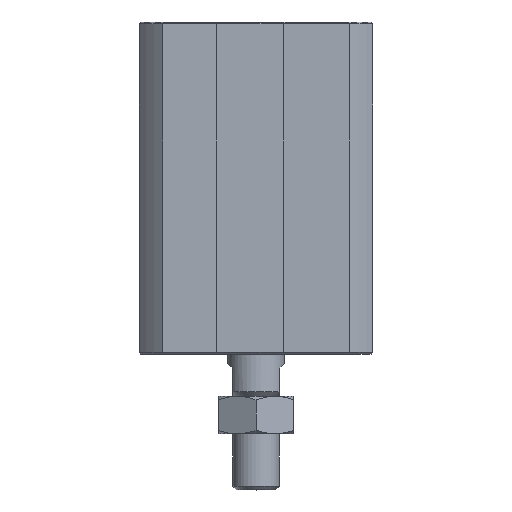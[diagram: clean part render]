
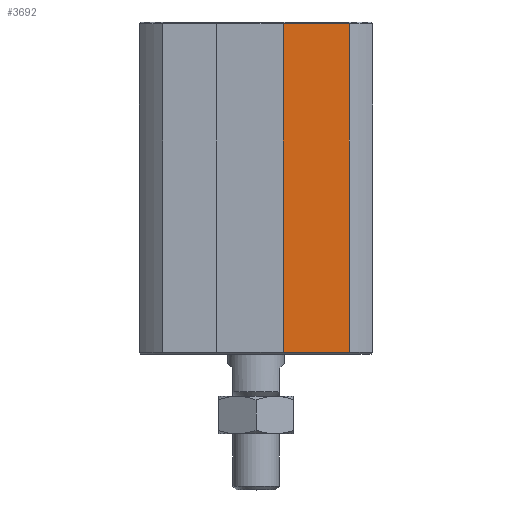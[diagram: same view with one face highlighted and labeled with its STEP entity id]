
A CAD part, top view. The second image highlights one B-rep face of the part: STEP entity #3692.
In plain terms, the highlighted planar face has unit normal (0, 0, 1).
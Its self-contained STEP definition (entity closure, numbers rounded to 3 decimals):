
#128=LINE('',#5032,#318);
#167=LINE('',#5167,#357);
#168=LINE('',#5169,#358);
#169=LINE('',#5171,#359);
#318=VECTOR('',#4294,1000.);
#357=VECTOR('',#4405,1000.);
#358=VECTOR('',#4406,1000.);
#359=VECTOR('',#4407,1000.);
#514=PLANE('',#3923);
#826=ORIENTED_EDGE('',*,*,#1402,.F.);
#827=ORIENTED_EDGE('',*,*,#1348,.T.);
#828=ORIENTED_EDGE('',*,*,#1403,.T.);
#829=ORIENTED_EDGE('',*,*,#1404,.T.);
#1348=EDGE_CURVE('',#1680,#1679,#128,.T.);
#1402=EDGE_CURVE('',#1680,#1708,#167,.T.);
#1403=EDGE_CURVE('',#1679,#1709,#168,.T.);
#1404=EDGE_CURVE('',#1709,#1708,#169,.T.);
#1679=VERTEX_POINT('',#5031);
#1680=VERTEX_POINT('',#5033);
#1708=VERTEX_POINT('',#5168);
#1709=VERTEX_POINT('',#5170);
#2031=EDGE_LOOP('',(#826,#827,#828,#829));
#2255=FACE_BOUND('',#2031,.T.);
#3692=ADVANCED_FACE('',(#2255),#514,.F.);
#3923=AXIS2_PLACEMENT_3D('',#5166,#4403,#4404);
#4294=DIRECTION('',(-1.,0.,0.));
#4403=DIRECTION('',(0.,0.,-1.));
#4404=DIRECTION('',(-1.,0.,0.));
#4405=DIRECTION('',(0.,-1.,0.));
#4406=DIRECTION('',(0.,-1.,0.));
#4407=DIRECTION('',(1.,0.,0.));
#5031=CARTESIAN_POINT('',(2.9,35.3,12.5));
#5032=CARTESIAN_POINT('',(0.,35.3,12.5));
#5033=CARTESIAN_POINT('',(9.987,35.3,12.5));
#5166=CARTESIAN_POINT('',(2.9,25.5,12.5));
#5167=CARTESIAN_POINT('',(9.987,25.5,12.5));
#5168=CARTESIAN_POINT('',(9.987,0.2,12.5));
#5169=CARTESIAN_POINT('',(2.9,25.5,12.5));
#5170=CARTESIAN_POINT('',(2.9,0.2,12.5));
#5171=CARTESIAN_POINT('',(2.9,0.2,12.5));
